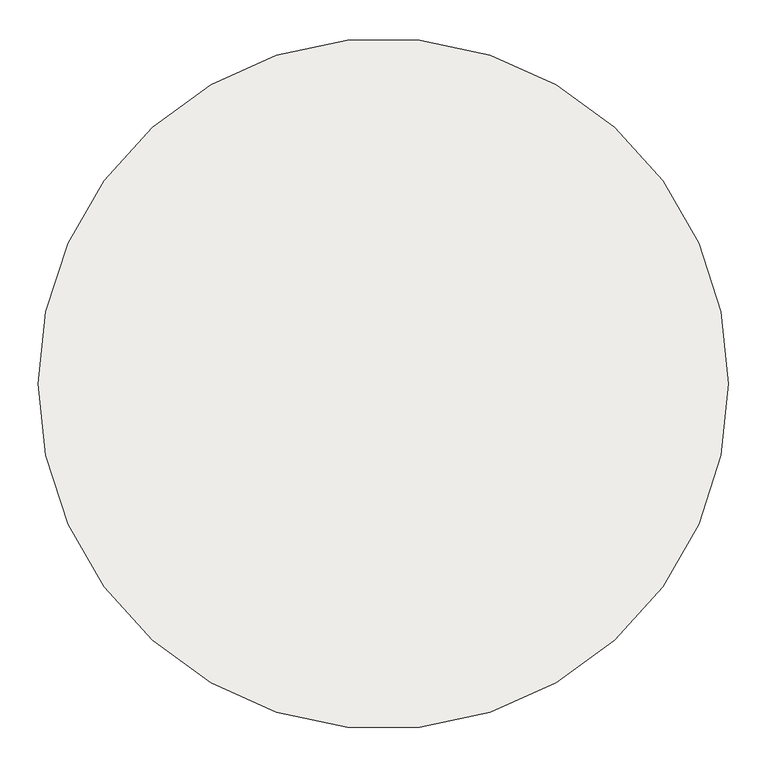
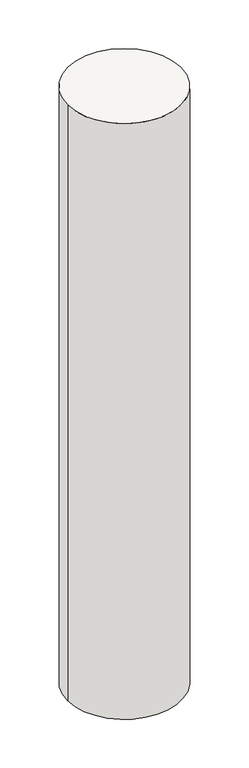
"""IFC4 building model written with IfcOpenShell, lengths in millimetres: slab geometry, R_Pilota kruhová : Pilota průměr 900 mm."""

from ifc_helpers import new_model, si_unit, point, frame, origin, origin_2d, place, context, project, spatial, circle_curve, trimmed, segment, composite_curve, outline, extrude, source, transform, mapped, element, save


def slab_eaf7851d(model_context):
    return source(origin(), model_context, "Body", "SweptSolid", [
        extrude(outline(composite_curve([segment(trimmed(circle_curve(origin_2d(), 450.0), [point((-450.0, 0.0))], [point((450.0, 0.0))], False, "CARTESIAN"), True, "CONTINUOUS"), segment(trimmed(circle_curve(origin_2d(), 450.0), [point((450.0, 0.0))], [point((-450.0, 0.0))], False, "CARTESIAN"), True, "CONTINUOUS")], self_intersect=False)), frame((0.0, 0.0, -5000.0), z_axis=(0.0, 0.0, 1.0), x_axis=(1.0, 0.0, 0.0)), (0.0, 0.0, 1.0), 5000.0),
    ])


if __name__ == "__main__":
    model = new_model("IFC4")
    model_context = context("Model", 3, world=origin())
    ifc_project = project(units=[si_unit("LENGTHUNIT", "METRE", prefix="MILLI")], contexts=[model_context])
    site = spatial("IfcSite", under=ifc_project)
    building = spatial("IfcBuilding", under=site)
    placement = place(None, origin())
    slab_shape = slab_eaf7851d(model_context)
    element("IfcSlab", 1, ObjectType="R_Pilota kruhová : Pilota průměr 900 mm", at=placement, inside=building, context=model_context, shape_type="MappedRepresentation", body=[
        mapped(slab_shape, transform((0.0, 0.0, 0.0), x_axis=(1.0, 0.0, 0.0), y_axis=(0.0, 1.0, 0.0), z_axis=(0.0, 0.0, 1.0))),
    ])
    save(model, "model.ifc")
